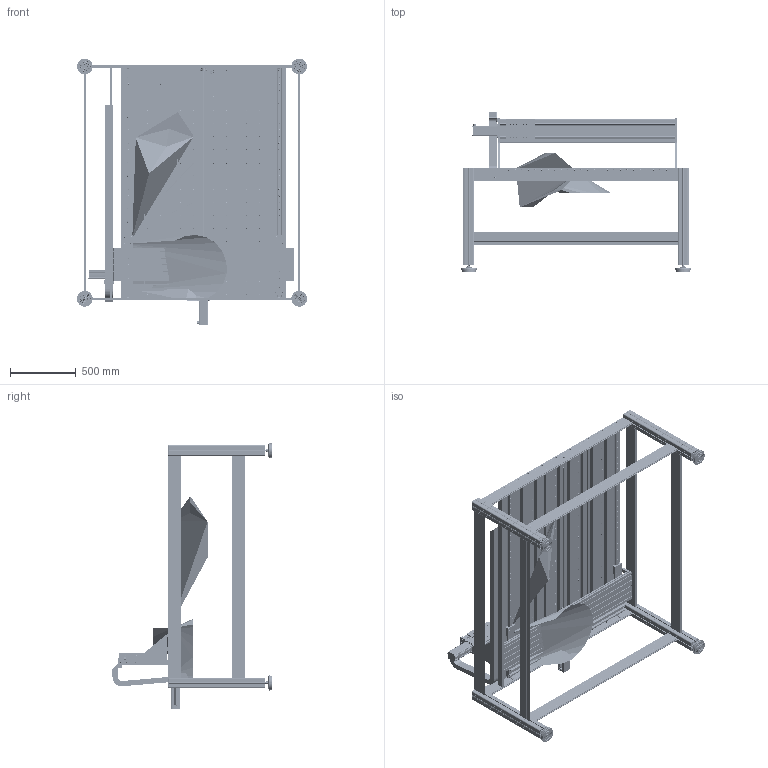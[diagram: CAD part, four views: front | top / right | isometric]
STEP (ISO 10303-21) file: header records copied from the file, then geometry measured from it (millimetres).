
FILE_DESCRIPTION (( 'STEP AP203' ), '1' );
FILE_NAME ('STEP_-_X-Y Flachbetteinheit FB2 - ArtNr 246203 2130M - ArtNr 248500 0130.step', '2015-04-22T15:13:58', ( '' ), ( '' ), 'SwSTEP 2.0', 'SolidWorks 2014', '' );
FILE_SCHEMA (( 'CONFIG_CONTROL_DESIGN' ));
Length unit declared in the file: millimetre
Products named in the file (6): TE0179 - F黨rungsschlitten_F乭rungsschlitten f乺 KG-Mutter Typ25; X-Y-Achse f黵 Verfahrweg 1030; Untergestell 1250x1750; Untergestell Baugruppe_1250x1750; STEP_-_X-Y Flachbetteinheit FB2 - ArtNr 246203 2130M - ArtNr 248500 0130; TE0060 - Schlittenplatte Vorschub 175mm
Assembly tree (6 placements, depth 3):
  STEP_-_X-Y Flachbetteinheit FB2 - ArtNr 246203 2130M - ArtNr 248500 0130
    TE0060 - Schlittenplatte Vorschub 175mm
    TE0179 - F黨rungsschlitten_F乭rungsschlitten f乺 KG-Mutter Typ25  x2
    X-Y-Achse f黵 Verfahrweg 1030
    Untergestell Baugruppe_1250x1750
      Untergestell 1250x1750
Bounding box: 1749.73 x 1209.4 x 2028.16 mm (x, y, z)
Volume: 63238330.5 mm3; surface area: 41955926.3 mm2
Topology: 557 solids, 557 shells, 17406 faces, 44322 edges, 28581 vertices
Faces by surface type: plane 10192, cylinder 4516, cone 1227, torus 890, bspline 426, sphere 155
Full cylindrical faces by diameter (mm): 1.5 x6, 2 x2, 2.33 x2, 2.4 x2, 2.5 x27, 3 x16, 3.2 x10, 4 x18, 4.2 x10, 4.5 x16, 4.6 x2, 4.8 x4, 5 x63, 5.2 x40, 5.5 x12, 6 x362, 6.1 x12, 6.35 x2, 6.4 x10, 6.5 x88, 6.6 x85, 7 x279, 7.2 x2, 7.5 x30, 8 x12, 8.5 x16, 9 x1, 9.2 x2, 9.8 x2, 10 x311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
Entity records: 562092 total; most frequent: CARTESIAN_POINT 171629, DIRECTION 77394, ORIENTED_EDGE 76896, EDGE_CURVE 38448, AXIS2_PLACEMENT_3D 27352, VERTEX_POINT 26863, EDGE_LOOP 23719, VECTOR 22690
